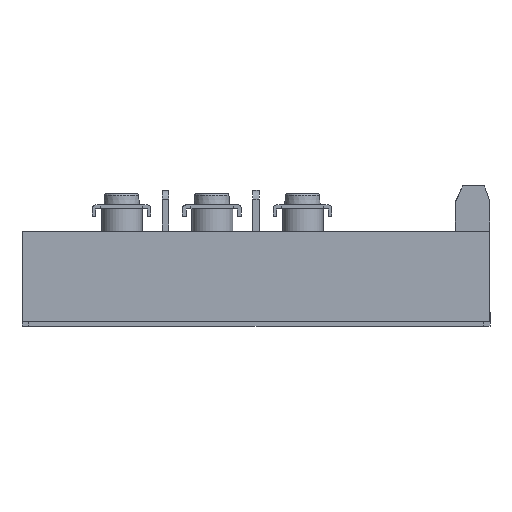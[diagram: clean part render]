
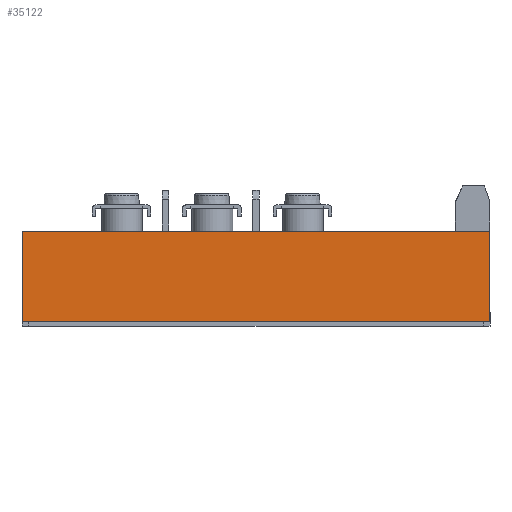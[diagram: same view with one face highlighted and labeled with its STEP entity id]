
A CAD part, front view. The second image highlights one B-rep face of the part: STEP entity #35122.
In plain terms, the highlighted planar face has unit normal (0, -1, 0).
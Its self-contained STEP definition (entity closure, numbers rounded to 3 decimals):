
#30213 = PLANE('',#30214);
#30214 = AXIS2_PLACEMENT_3D('',#30215,#30216,#30217);
#30215 = CARTESIAN_POINT('',(0.,58.813,18.));
#30216 = DIRECTION('',(0.,0.,-1.));
#30217 = DIRECTION('',(-1.,0.,0.));
#30355 = VERTEX_POINT('',#30356);
#30356 = CARTESIAN_POINT('',(-5.85,-1.5,18.));
#30370 = PLANE('',#30371);
#30371 = AXIS2_PLACEMENT_3D('',#30372,#30373,#30374);
#30372 = CARTESIAN_POINT('',(-5.85,5.713,18.));
#30373 = DIRECTION('',(1.,0.,0.));
#30374 = DIRECTION('',(0.,1.,0.));
#30382 = EDGE_CURVE('',#30355,#30383,#30385,.T.);
#30383 = VERTEX_POINT('',#30384);
#30384 = CARTESIAN_POINT('',(97.65,-1.5,18.));
#30385 = SURFACE_CURVE('',#30386,(#30390,#30397),.PCURVE_S1.);
#30386 = LINE('',#30387,#30388);
#30387 = CARTESIAN_POINT('',(-5.85,-1.5,18.));
#30388 = VECTOR('',#30389,1.);
#30389 = DIRECTION('',(1.,0.,0.));
#30390 = PCURVE('',#30213,#30391);
#30391 = DEFINITIONAL_REPRESENTATION('',(#30392),#30396);
#30392 = LINE('',#30393,#30394);
#30393 = CARTESIAN_POINT('',(5.85,-60.313));
#30394 = VECTOR('',#30395,1.);
#30395 = DIRECTION('',(-1.,0.));
#30396 = ( GEOMETRIC_REPRESENTATION_CONTEXT(2) 
PARAMETRIC_REPRESENTATION_CONTEXT() REPRESENTATION_CONTEXT('2D SPACE',''
  ) );
#30397 = PCURVE('',#30398,#30403);
#30398 = PLANE('',#30399);
#30399 = AXIS2_PLACEMENT_3D('',#30400,#30401,#30402);
#30400 = CARTESIAN_POINT('',(-5.85,-1.5,18.));
#30401 = DIRECTION('',(0.,1.,0.));
#30402 = DIRECTION('',(0.,0.,1.));
#30403 = DEFINITIONAL_REPRESENTATION('',(#30404),#30408);
#30404 = LINE('',#30405,#30406);
#30405 = CARTESIAN_POINT('',(0.,0.));
#30406 = VECTOR('',#30407,1.);
#30407 = DIRECTION('',(0.,1.));
#30408 = ( GEOMETRIC_REPRESENTATION_CONTEXT(2) 
PARAMETRIC_REPRESENTATION_CONTEXT() REPRESENTATION_CONTEXT('2D SPACE',''
  ) );
#30426 = PLANE('',#30427);
#30427 = AXIS2_PLACEMENT_3D('',#30428,#30429,#30430);
#30428 = CARTESIAN_POINT('',(97.65,5.709,18.));
#30429 = DIRECTION('',(1.,0.,0.));
#30430 = DIRECTION('',(0.,1.,0.));
#31486 = PLANE('',#31487);
#31487 = AXIS2_PLACEMENT_3D('',#31488,#31489,#31490);
#31488 = CARTESIAN_POINT('',(0.,58.813,-2.));
#31489 = DIRECTION('',(0.,0.,-1.));
#31490 = DIRECTION('',(-1.,0.,0.));
#33454 = VERTEX_POINT('',#33455);
#33455 = CARTESIAN_POINT('',(97.65,-1.5,-2.));
#33476 = EDGE_CURVE('',#33477,#33454,#33479,.T.);
#33477 = VERTEX_POINT('',#33478);
#33478 = CARTESIAN_POINT('',(-5.85,-1.5,-2.));
#33479 = SURFACE_CURVE('',#33480,(#33484,#33491),.PCURVE_S1.);
#33480 = LINE('',#33481,#33482);
#33481 = CARTESIAN_POINT('',(-5.85,-1.5,-2.));
#33482 = VECTOR('',#33483,1.);
#33483 = DIRECTION('',(1.,0.,0.));
#33484 = PCURVE('',#31486,#33485);
#33485 = DEFINITIONAL_REPRESENTATION('',(#33486),#33490);
#33486 = LINE('',#33487,#33488);
#33487 = CARTESIAN_POINT('',(5.85,-60.313));
#33488 = VECTOR('',#33489,1.);
#33489 = DIRECTION('',(-1.,0.));
#33490 = ( GEOMETRIC_REPRESENTATION_CONTEXT(2) 
PARAMETRIC_REPRESENTATION_CONTEXT() REPRESENTATION_CONTEXT('2D SPACE',''
  ) );
#33491 = PCURVE('',#30398,#33492);
#33492 = DEFINITIONAL_REPRESENTATION('',(#33493),#33497);
#33493 = LINE('',#33494,#33495);
#33494 = CARTESIAN_POINT('',(-20.,0.));
#33495 = VECTOR('',#33496,1.);
#33496 = DIRECTION('',(0.,1.));
#33497 = ( GEOMETRIC_REPRESENTATION_CONTEXT(2) 
PARAMETRIC_REPRESENTATION_CONTEXT() REPRESENTATION_CONTEXT('2D SPACE',''
  ) );
#35102 = EDGE_CURVE('',#30383,#33454,#35103,.T.);
#35103 = SURFACE_CURVE('',#35104,(#35108,#35115),.PCURVE_S1.);
#35104 = LINE('',#35105,#35106);
#35105 = CARTESIAN_POINT('',(97.65,-1.5,18.));
#35106 = VECTOR('',#35107,1.);
#35107 = DIRECTION('',(0.,0.,-1.));
#35108 = PCURVE('',#30426,#35109);
#35109 = DEFINITIONAL_REPRESENTATION('',(#35110),#35114);
#35110 = LINE('',#35111,#35112);
#35111 = CARTESIAN_POINT('',(-7.209,0.));
#35112 = VECTOR('',#35113,1.);
#35113 = DIRECTION('',(0.,-1.));
#35114 = ( GEOMETRIC_REPRESENTATION_CONTEXT(2) 
PARAMETRIC_REPRESENTATION_CONTEXT() REPRESENTATION_CONTEXT('2D SPACE',''
  ) );
#35115 = PCURVE('',#30398,#35116);
#35116 = DEFINITIONAL_REPRESENTATION('',(#35117),#35121);
#35117 = LINE('',#35118,#35119);
#35118 = CARTESIAN_POINT('',(0.,103.5));
#35119 = VECTOR('',#35120,1.);
#35120 = DIRECTION('',(-1.,0.));
#35121 = ( GEOMETRIC_REPRESENTATION_CONTEXT(2) 
PARAMETRIC_REPRESENTATION_CONTEXT() REPRESENTATION_CONTEXT('2D SPACE',''
  ) );
#35122 = ADVANCED_FACE('',(#35123),#30398,.F.);
#35123 = FACE_BOUND('',#35124,.T.);
#35124 = EDGE_LOOP('',(#35125,#35126,#35127,#35128));
#35125 = ORIENTED_EDGE('',*,*,#33476,.T.);
#35126 = ORIENTED_EDGE('',*,*,#35102,.F.);
#35127 = ORIENTED_EDGE('',*,*,#30382,.F.);
#35128 = ORIENTED_EDGE('',*,*,#35129,.T.);
#35129 = EDGE_CURVE('',#30355,#33477,#35130,.T.);
#35130 = SURFACE_CURVE('',#35131,(#35135,#35142),.PCURVE_S1.);
#35131 = LINE('',#35132,#35133);
#35132 = CARTESIAN_POINT('',(-5.85,-1.5,18.));
#35133 = VECTOR('',#35134,1.);
#35134 = DIRECTION('',(0.,0.,-1.));
#35135 = PCURVE('',#30398,#35136);
#35136 = DEFINITIONAL_REPRESENTATION('',(#35137),#35141);
#35137 = LINE('',#35138,#35139);
#35138 = CARTESIAN_POINT('',(0.,0.));
#35139 = VECTOR('',#35140,1.);
#35140 = DIRECTION('',(-1.,0.));
#35141 = ( GEOMETRIC_REPRESENTATION_CONTEXT(2) 
PARAMETRIC_REPRESENTATION_CONTEXT() REPRESENTATION_CONTEXT('2D SPACE',''
  ) );
#35142 = PCURVE('',#30370,#35143);
#35143 = DEFINITIONAL_REPRESENTATION('',(#35144),#35148);
#35144 = LINE('',#35145,#35146);
#35145 = CARTESIAN_POINT('',(-7.213,0.));
#35146 = VECTOR('',#35147,1.);
#35147 = DIRECTION('',(0.,-1.));
#35148 = ( GEOMETRIC_REPRESENTATION_CONTEXT(2) 
PARAMETRIC_REPRESENTATION_CONTEXT() REPRESENTATION_CONTEXT('2D SPACE',''
  ) );
